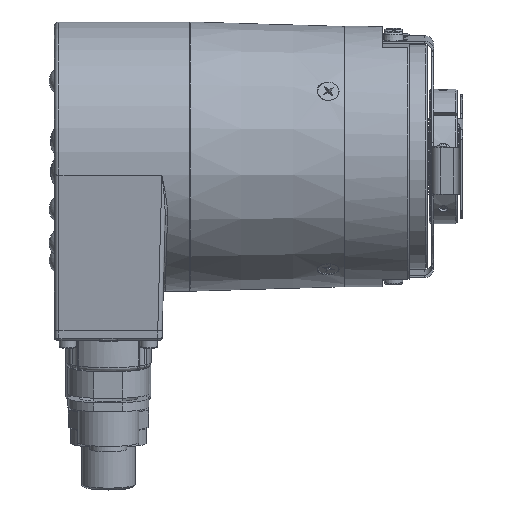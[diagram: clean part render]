
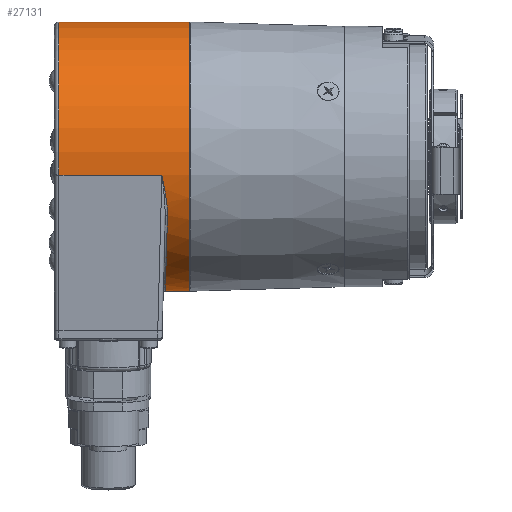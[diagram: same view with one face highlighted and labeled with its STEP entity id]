
A CAD part, top view. The second image highlights one B-rep face of the part: STEP entity #27131.
In plain terms, the highlighted cylindrical face has radius 30 mm (diameter 60 mm), a full revolution.
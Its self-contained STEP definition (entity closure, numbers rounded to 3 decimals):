
#631 = DIRECTION ( 'NONE',  ( 1., 0., 0. ) ) ;
#808 = CIRCLE ( 'NONE', #6042, 30. ) ;
#862 = CARTESIAN_POINT ( 'NONE',  ( -32.341, -7.996, 28.925 ) ) ;
#1088 = EDGE_CURVE ( 'NONE', #24953, #8600, #13154, .T. ) ;
#1165 = CARTESIAN_POINT ( 'NONE',  ( -31.851, -3.656, -29.787 ) ) ;
#1563 = VECTOR ( 'NONE', #10931, 1000. ) ;
#1677 = DIRECTION ( 'NONE',  ( 0., -0.99, -0.139 ) ) ;
#2281 = LINE ( 'NONE', #8733, #1563 ) ;
#2520 = VERTEX_POINT ( 'NONE', #7114 ) ;
#2750 = B_SPLINE_CURVE_WITH_KNOTS ( 'NONE', 3,
 ( #19165, #7649, #26032, #12271, #28340, #14589, #862, #16931, #3172, #19265, #5477, #21577 ),
 .UNSPECIFIED., .F., .F.,
 ( 4, 2, 2, 2, 2, 4 ),
 ( 0., 0.001, 0.002, 0.005, 0.007, 0.009 ),
 .UNSPECIFIED. ) ;
#3132 = EDGE_CURVE ( 'NONE', #16720, #8600, #18297, .T. ) ;
#3172 = CARTESIAN_POINT ( 'NONE',  ( -31.994, -10.246, 28.207 ) ) ;
#3463 = CARTESIAN_POINT ( 'NONE',  ( -32.098, -1.283, -29.983 ) ) ;
#3594 = AXIS2_PLACEMENT_3D ( 'NONE', #14613, #28149, #23889 ) ;
#4641 = EDGE_LOOP ( 'NONE', ( #6617 ) ) ;
#4667 = EDGE_CURVE ( 'NONE', #2520, #24953, #2281, .T. ) ;
#5239 = EDGE_CURVE ( 'NONE', #15070, #15070, #808, .T. ) ;
#5477 = CARTESIAN_POINT ( 'NONE',  ( -31.81, -12.453, 27.305 ) ) ;
#5541 = ORIENTED_EDGE ( 'NONE', *, *, #8867, .T. ) ;
#5776 = CARTESIAN_POINT ( 'NONE',  ( -32.479, 1.067, -29.991 ) ) ;
#5844 = CARTESIAN_POINT ( 'NONE',  ( -31.831, -13.172, 26.954 ) ) ;
#6042 = AXIS2_PLACEMENT_3D ( 'NONE', #29176, #15412, #1677 ) ;
#6617 = ORIENTED_EDGE ( 'NONE', *, *, #5239, .F. ) ;
#7114 = CARTESIAN_POINT ( 'NONE',  ( -33.084, 4.175, -29.708 ) ) ;
#7649 = CARTESIAN_POINT ( 'NONE',  ( -33.006, -4.56, 29.654 ) ) ;
#7901 = DIRECTION ( 'NONE',  ( -1., 0., 0. ) ) ;
#7959 = CARTESIAN_POINT ( 'NONE',  ( -31.831, -5.232, -29.54 ) ) ;
#8057 = CARTESIAN_POINT ( 'NONE',  ( -32.928, 3.401, -29.817 ) ) ;
#8134 = EDGE_CURVE ( 'NONE', #29321, #25366, #8546, .T. ) ;
#8546 =( BOUNDED_CURVE ( )  B_SPLINE_CURVE ( 3, ( #5844, #17320, #26420, #21956 ),
 .UNSPECIFIED., .F., .F. ) 
 B_SPLINE_CURVE_WITH_KNOTS ( ( 4, 4 ),
 ( 5.027, 7.539 ),
 .UNSPECIFIED. ) 
 CURVE ( )  GEOMETRIC_REPRESENTATION_ITEM ( )  RATIONAL_B_SPLINE_CURVE ( ( 1., 0.54, 0.54, 1. ) ) 
 REPRESENTATION_ITEM ( '' )  );
#8600 = VERTEX_POINT ( 'NONE', #22687 ) ;
#8733 = CARTESIAN_POINT ( 'NONE',  ( -33., 4.175, -29.708 ) ) ;
#8867 = EDGE_CURVE ( 'NONE', #16720, #29321, #2750, .T. ) ;
#8892 = FACE_OUTER_BOUND ( 'NONE', #16061, .T. ) ;
#10142 = ORIENTED_EDGE ( 'NONE', *, *, #1088, .T. ) ;
#10169 = CARTESIAN_POINT ( 'NONE',  ( -27., -29.708, -4.175 ) ) ;
#10251 = CARTESIAN_POINT ( 'NONE',  ( -31.831, -5.232, -29.54 ) ) ;
#10253 = CARTESIAN_POINT ( 'NONE',  ( -31.81, -4.445, -29.68 ) ) ;
#10678 = CARTESIAN_POINT ( 'NONE',  ( -56., 4.175, -29.708 ) ) ;
#10931 = DIRECTION ( 'NONE',  ( -1., 0., 0. ) ) ;
#11388 = VECTOR ( 'NONE', #7901, 1000. ) ;
#11543 = AXIS2_PLACEMENT_3D ( 'NONE', #21923, #631, #14034 ) ;
#12271 = CARTESIAN_POINT ( 'NONE',  ( -32.775, -5.716, 29.453 ) ) ;
#12558 = ORIENTED_EDGE ( 'NONE', *, *, #22381, .T. ) ;
#13154 = CIRCLE ( 'NONE', #11543, 30. ) ;
#14034 = DIRECTION ( 'NONE',  ( 0., -0.99, -0.139 ) ) ;
#14589 = CARTESIAN_POINT ( 'NONE',  ( -32.48, -7.241, 29.124 ) ) ;
#14613 = CARTESIAN_POINT ( 'NONE',  ( -27., 0., 0. ) ) ;
#15070 = VERTEX_POINT ( 'NONE', #10169 ) ;
#15412 = DIRECTION ( 'NONE',  ( 1., 0., 0. ) ) ;
#16061 = EDGE_LOOP ( 'NONE', ( #22567, #5541, #29754, #12558, #28183, #10142 ) ) ;
#16720 = VERTEX_POINT ( 'NONE', #29551 ) ;
#16931 = CARTESIAN_POINT ( 'NONE',  ( -32.098, -9.498, 28.468 ) ) ;
#17245 = CARTESIAN_POINT ( 'NONE',  ( -31.994, -2.074, -29.939 ) ) ;
#17320 = CARTESIAN_POINT ( 'NONE',  ( -32.722, -44.821, 11.487 ) ) ;
#18288 = CYLINDRICAL_SURFACE ( 'NONE', #3594, 30. ) ;
#18297 = LINE ( 'NONE', #22212, #11388 ) ;
#19165 = CARTESIAN_POINT ( 'NONE',  ( -33.084, -4.175, 29.708 ) ) ;
#19265 = CARTESIAN_POINT ( 'NONE',  ( -31.851, -11.725, 27.625 ) ) ;
#19573 = CARTESIAN_POINT ( 'NONE',  ( -32.341, 0.286, -30.009 ) ) ;
#21183 = FACE_OUTER_BOUND ( 'NONE', #4641, .T. ) ;
#21577 = CARTESIAN_POINT ( 'NONE',  ( -31.831, -13.172, 26.954 ) ) ;
#21646 = CARTESIAN_POINT ( 'NONE',  ( -31.831, -13.172, 26.954 ) ) ;
#21882 = CARTESIAN_POINT ( 'NONE',  ( -32.773, 2.624, -29.895 ) ) ;
#21923 = CARTESIAN_POINT ( 'NONE',  ( -56., 0., 0. ) ) ;
#21956 = CARTESIAN_POINT ( 'NONE',  ( -31.831, -5.232, -29.54 ) ) ;
#22212 = CARTESIAN_POINT ( 'NONE',  ( -33., -4.175, 29.708 ) ) ;
#22381 = EDGE_CURVE ( 'NONE', #25366, #2520, #23489, .T. ) ;
#22567 = ORIENTED_EDGE ( 'NONE', *, *, #3132, .F. ) ;
#22687 = CARTESIAN_POINT ( 'NONE',  ( -56., -4.175, 29.708 ) ) ;
#23489 = B_SPLINE_CURVE_WITH_KNOTS ( 'NONE', 3,
 ( #7959, #10253, #1165, #17245, #3463, #19573, #5776, #21882, #8057, #24184 ),
 .UNSPECIFIED., .F., .F.,
 ( 4, 2, 2, 2, 4 ),
 ( 0., 0.002, 0.005, 0.007, 0.01 ),
 .UNSPECIFIED. ) ;
#23889 = DIRECTION ( 'NONE',  ( 0., 0.99, 0.139 ) ) ;
#24184 = CARTESIAN_POINT ( 'NONE',  ( -33.084, 4.175, -29.708 ) ) ;
#24953 = VERTEX_POINT ( 'NONE', #10678 ) ;
#25366 = VERTEX_POINT ( 'NONE', #10251 ) ;
#26032 = CARTESIAN_POINT ( 'NONE',  ( -32.928, -4.948, 29.592 ) ) ;
#26420 = CARTESIAN_POINT ( 'NONE',  ( -32.722, -39.919, -23.397 ) ) ;
#27131 = ADVANCED_FACE ( 'NONE', ( #8892, #21183 ), #18288, .T. ) ;
#28149 = DIRECTION ( 'NONE',  ( -1., 0., 0. ) ) ;
#28183 = ORIENTED_EDGE ( 'NONE', *, *, #4667, .T. ) ;
#28340 = CARTESIAN_POINT ( 'NONE',  ( -32.7, -6.098, 29.376 ) ) ;
#29176 = CARTESIAN_POINT ( 'NONE',  ( -27., 0., 0. ) ) ;
#29321 = VERTEX_POINT ( 'NONE', #21646 ) ;
#29551 = CARTESIAN_POINT ( 'NONE',  ( -33.084, -4.175, 29.708 ) ) ;
#29754 = ORIENTED_EDGE ( 'NONE', *, *, #8134, .T. ) ;
